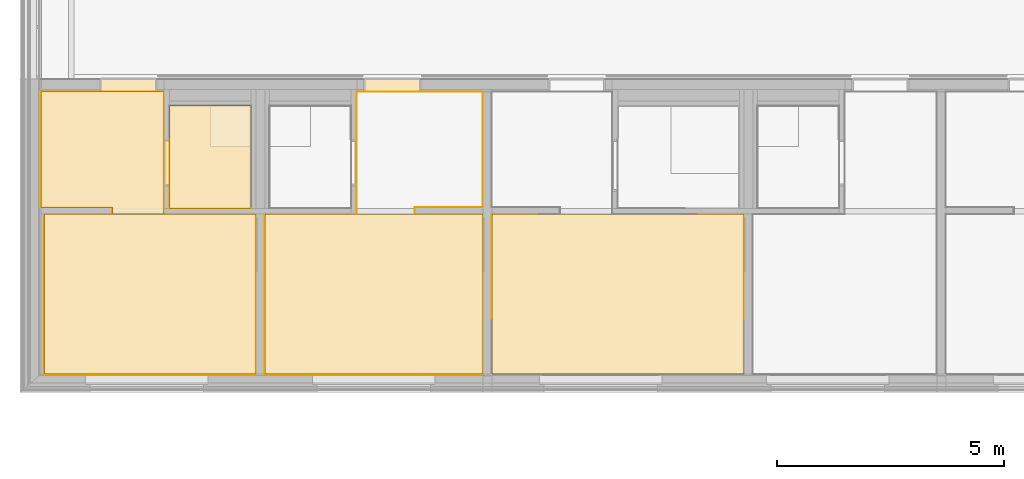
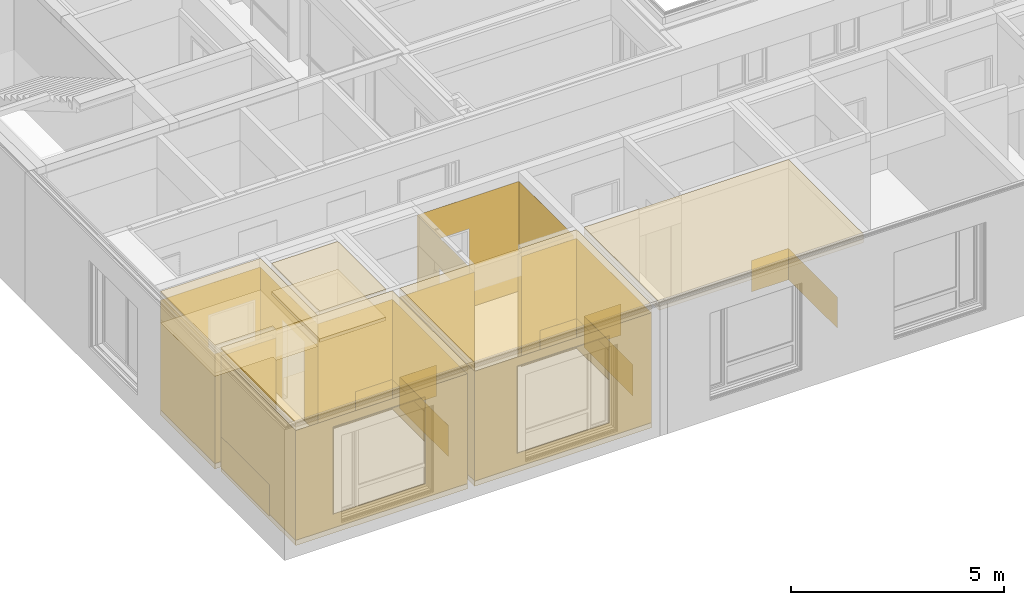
# One storey, part 153 of 222: 32 coverings.
"""IFC4 building model written with IfcOpenShell, lengths in metres."""

from ifc_helpers import new_model, entity, si_unit, converted_unit, derived_unit, frame, frame_2d, origin, origin_with_axes, place, context, subcontext, project, spatial, polyline, rectangle, outline, extrude, material, layer, layer_set, layer_usage, element, save


model = new_model("IFC4")

# Units and contexts
model_context = context("Model", 3, precision=1e-05, world=origin())
body_context = subcontext(model_context, "Body", "Model", "MODEL_VIEW")
ifc_project = project(units=[si_unit("LENGTHUNIT", "METRE"), si_unit("AREAUNIT", "SQUARE_METRE"), si_unit("VOLUMEUNIT", "CUBIC_METRE"), si_unit("MASSUNIT", "GRAM", prefix="KILO"), converted_unit("PLANEANGLEUNIT", "DEGREE", entity("IfcPlaneAngleMeasure", 0.0174532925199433), si_unit("PLANEANGLEUNIT", "RADIAN"), dimensions=[0, 0, 0, 0, 0, 0, 0]), derived_unit("THERMALTRANSMITTANCEUNIT", [(si_unit("POWERUNIT", "WATT"), 1), (si_unit("THERMODYNAMICTEMPERATUREUNIT", "KELVIN"), -1), (si_unit("LENGTHUNIT", "METRE"), -2)]), derived_unit("VOLUMETRICFLOWRATEUNIT", [(si_unit("LENGTHUNIT", "METRE"), 3), (converted_unit("TIMEUNIT", "hour", entity("IfcTimeMeasure", 3600.0), si_unit("TIMEUNIT", "SECOND"), dimensions=[0, 0, 1, 0, 0, 0, 0]), -1), (si_unit("LENGTHUNIT", "METRE"), -1)])], contexts=[model_context])

# Site, building, storey, space
site_placement = place(None, origin())
site = spatial("IfcSite", under=ifc_project, at=site_placement, Name="Psychiatrie Neubau Wunstorf", CompositionType="ELEMENT")
building_placement = place(site_placement, origin())
building = spatial("IfcBuilding", under=site, at=building_placement, Name="Neubau H2 Stationsgebäude", CompositionType="ELEMENT")
storey_placement = place(building_placement, frame((0.0, 0.0, 3.6)))
storey = spatial("IfcBuildingStorey", under=building, at=storey_placement, Name="H2 Ebene +1", CompositionType="ELEMENT", Elevation=3.6)
space_1_placement = place(storey_placement, frame((10.1, -2.16399999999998, 0.0)))
space_1 = spatial("IfcSpace", under=storey, at=space_1_placement, Name="WUN-H2-E01-023", CompositionType="ELEMENT")

# Coverings
ifc_material_1 = material(Name="84")
ifc_layer_1 = layer(ifc_material_1, 0.001)
ifc_layer_set_1 = layer_set([ifc_layer_1])
ifc_layer_usage_1 = layer_usage(ifc_layer_set_1, "AXIS3", "POSITIVE", 0.0)
covering_1_placement = place(space_1_placement, frame((0.0, 1.22274963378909, 0.1)))
element("IfcCovering", 1, at=covering_1_placement, inside=space_1, material=ifc_layer_usage_1, Name="Acrovyn", PredefinedType="CLADDING", context=body_context, shape_type="SweptSolid", body=[
    extrude(rectangle(XDim=1.0, YDim=0.9, at=frame_2d((0.5, -0.45), x_axis=(1.0, 0.0))), frame((1.0, 2.3, 0.0), z_axis=(0.0, -1.0, 0.0), x_axis=(-1.0, 0.0, 0.0)), (0.0, 0.0, 1.0), 0.001),
    extrude(rectangle(XDim=2.3, YDim=0.9, at=frame_2d((1.15, -0.45), x_axis=(1.0, 0.0))), frame((0.0, 2.3, 0.0), z_axis=(1.0, 0.0, 0.0), x_axis=(0.0, -1.0, 0.0)), (0.0, 0.0, 1.0), 0.001),
])
ifc_material_2 = material(Name="84")
ifc_layer_2 = layer(ifc_material_2, 0.001)
ifc_layer_set_2 = layer_set([ifc_layer_2])
ifc_layer_usage_2 = layer_usage(ifc_layer_set_2, "AXIS3", "POSITIVE", 0.0)
covering_2_placement = place(space_1_placement, frame((4.55000000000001, 1.2227496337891, 0.1)))
element("IfcCovering", 2, at=covering_2_placement, inside=space_1, material=ifc_layer_usage_2, Name="Acrovyn", PredefinedType="CLADDING", context=body_context, shape_type="SweptSolid", body=[
    extrude(rectangle(XDim=0.9, YDim=1.0, at=frame_2d((-0.5, -0.45), x_axis=(0.0, -1.0))), frame((0.0, 2.3, 0.0), z_axis=(4.54747350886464e-16, -1.0, 0.0), x_axis=(-1.0, -4.54747350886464e-16, 0.0)), (0.0, 0.0, 1.0), 0.001),
    extrude(rectangle(XDim=0.9, YDim=2.3, at=frame_2d((-1.15, -0.45), x_axis=(0.0, -1.0))), frame((1.0, 2.3, 0.0), z_axis=(-1.0, 0.0, 0.0), x_axis=(0.0, 1.0, 0.0)), (0.0, 0.0, 1.0), 0.001),
])
ifc_material_3 = material()
ifc_layer_3 = layer(ifc_material_3, 0.036)
ifc_layer_set_3 = layer_set([ifc_layer_3])
ifc_layer_usage_3 = layer_usage(ifc_layer_set_3, "AXIS3", "POSITIVE", 0.0)
covering_3_placement = place(space_1_placement, frame((0.0, 0.0, 3.55)))
element("IfcCovering", 3, at=covering_3_placement, inside=space_1, material=ifc_layer_usage_3, Name="Gipsfaserplatten 2-lagig (BSK)", PredefinedType="CEILING", context=body_context, shape_type="SweptSolid", body=[
    extrude(rectangle(XDim=5.55, YDim=3.52274963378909, at=frame_2d((2.775, 1.76137481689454), x_axis=(1.0, -1.27001512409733e-15))), frame((0.0, 3.52274963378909, 0.0), z_axis=(0.0, 0.0, -1.0), x_axis=(1.0, 0.0, 0.0)), (0.0, 0.0, 1.0), 0.036),
])
ifc_material_4 = material(Name="Installationshöhe")
ifc_layer_4 = layer(ifc_material_4, 0.114)
ifc_layer_set_4 = layer_set([ifc_layer_4])
ifc_layer_usage_4 = layer_usage(ifc_layer_set_4, "AXIS3", "POSITIVE", 0.0)
covering_4_placement = place(space_1_placement, frame((0.0, 0.0, 3.514)))
element("IfcCovering", 4, at=covering_4_placement, inside=space_1, material=ifc_layer_usage_4, Name="Gipsfaserplatten 2-lagig (BSK)", PredefinedType="CEILING", context=body_context, shape_type="SweptSolid", body=[
    extrude(rectangle(XDim=5.55, YDim=3.52274963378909, at=frame_2d((2.775, 1.76137481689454), x_axis=(1.0, -1.27001512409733e-15))), frame((0.0, 3.52274963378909, 0.0), z_axis=(0.0, 0.0, -1.0), x_axis=(1.0, 0.0, 0.0)), (0.0, 0.0, 1.0), 0.114),
])
ifc_material_5 = material(Name="A1")
ifc_layer_5 = layer(ifc_material_5, 0.1)
ifc_layer_set_5 = layer_set([ifc_layer_5])
ifc_layer_usage_5 = layer_usage(ifc_layer_set_5, "AXIS3", "POSITIVE", 0.0)
covering_5_placement = place(space_1_placement, frame((0.0, 0.0, 3.4)))
element("IfcCovering", 5, at=covering_5_placement, inside=space_1, material=ifc_layer_usage_5, Name="Gipsfaserplatten 2-lagig (BSK)", PredefinedType="CEILING", context=body_context, shape_type="SweptSolid", body=[
    extrude(rectangle(XDim=5.55, YDim=3.52274963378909, at=frame_2d((2.775, 1.76137481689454), x_axis=(1.0, -1.27001512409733e-15))), frame((0.0, 3.52274963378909, 0.0), z_axis=(0.0, 0.0, -1.0), x_axis=(1.0, 0.0, 0.0)), (0.0, 0.0, 1.0), 0.1),
])
ifc_material_6 = material(Name="D1")
ifc_layer_6 = layer(ifc_material_6, 0.001)
ifc_layer_set_6 = layer_set([ifc_layer_6])
ifc_layer_usage_6 = layer_usage(ifc_layer_set_6, "AXIS3", "POSITIVE", 0.0)
covering_6_placement = place(space_1_placement, frame((0.0, 0.0, 3.3)))
element("IfcCovering", 6, at=covering_6_placement, inside=space_1, material=ifc_layer_usage_6, Name="Gipsfaserplatten 2-lagig (BSK)", PredefinedType="CEILING", context=body_context, shape_type="SweptSolid", body=[
    extrude(rectangle(XDim=5.55, YDim=3.52274963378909, at=frame_2d((2.775, 1.76137481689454), x_axis=(1.0, -1.27001512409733e-15))), frame((0.0, 3.52274963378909, 0.0), z_axis=(0.0, 0.0, -1.0), x_axis=(1.0, 0.0, 0.0)), (0.0, 0.0, 1.0), 0.001),
])

# Space
space_2_placement = place(storey_placement, frame((5.1, -2.16399999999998, 0.0)))
space_2 = spatial("IfcSpace", under=storey, at=space_2_placement, Name="WUN-H2-E01-024", CompositionType="ELEMENT")

# Coverings
ifc_material_7 = material(Name="84")
ifc_layer_7 = layer(ifc_material_7, 0.001)
ifc_layer_set_7 = layer_set([ifc_layer_7])
ifc_layer_usage_7 = layer_usage(ifc_layer_set_7, "AXIS3", "POSITIVE", 0.0)
covering_7_placement = place(space_2_placement, frame((0.0, 1.22274963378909, 0.1)))
element("IfcCovering", 7, at=covering_7_placement, inside=space_2, material=ifc_layer_usage_7, Name="Acrovyn", PredefinedType="CLADDING", context=body_context, shape_type="SweptSolid", body=[
    extrude(rectangle(XDim=1.0, YDim=0.9, at=frame_2d((0.5, -0.45), x_axis=(1.0, 0.0))), frame((1.0, 2.3, 0.0), z_axis=(0.0, -1.0, 0.0), x_axis=(-1.0, 0.0, 0.0)), (0.0, 0.0, 1.0), 0.001),
    extrude(rectangle(XDim=2.3, YDim=0.9, at=frame_2d((1.15, -0.45), x_axis=(1.0, 0.0))), frame((0.0, 2.3, 0.0), z_axis=(1.0, 0.0, 0.0), x_axis=(0.0, -1.0, 0.0)), (0.0, 0.0, 1.0), 0.001),
])
ifc_material_8 = material(Name="84")
ifc_layer_8 = layer(ifc_material_8, 0.001)
ifc_layer_set_8 = layer_set([ifc_layer_8])
ifc_layer_usage_8 = layer_usage(ifc_layer_set_8, "AXIS3", "POSITIVE", 0.0)
covering_8_placement = place(space_2_placement, frame((3.80000000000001, 1.2227496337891, 0.1)))
element("IfcCovering", 8, at=covering_8_placement, inside=space_2, material=ifc_layer_usage_8, Name="Acrovyn", PredefinedType="CLADDING", context=body_context, shape_type="SweptSolid", body=[
    extrude(rectangle(XDim=0.9, YDim=1.0, at=frame_2d((-0.5, -0.45), x_axis=(0.0, -1.0))), frame((0.0, 2.3, 0.0), z_axis=(4.54747350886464e-16, -1.0, 0.0), x_axis=(-1.0, -4.54747350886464e-16, 0.0)), (0.0, 0.0, 1.0), 0.001),
    extrude(rectangle(XDim=0.9, YDim=2.3, at=frame_2d((-1.15, -0.45), x_axis=(0.0, -1.0))), frame((1.0, 2.3, 0.0), z_axis=(-1.0, 0.0, 0.0), x_axis=(0.0, 1.0, 0.0)), (0.0, 0.0, 1.0), 0.001),
])
ifc_material_9 = material(Name="Ku1")
ifc_layer_9 = layer(ifc_material_9, 0.15)
ifc_layer_set_9 = layer_set([ifc_layer_9])
ifc_layer_usage_9 = layer_usage(ifc_layer_set_9, "AXIS3", "POSITIVE", 0.0)
covering_9_placement = place(space_2_placement, origin())
element("IfcCovering", 9, at=covering_9_placement, inside=space_2, material=ifc_layer_usage_9, Name="PVC Bahnenware Holzoptik", PredefinedType="FLOORING", context=body_context, shape_type="SweptSolid", body=[
    extrude(rectangle(XDim=0.271999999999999, YDim=1.26, at=frame_2d((-0.63, 0.136), x_axis=(0.0, 1.0))), frame((3.435, 6.22274963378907, 0.0), z_axis=(0.0, 0.0, 1.0), x_axis=(1.0, 0.0, 0.0)), (0.0, 0.0, 1.0), 0.15),
    extrude(outline(polyline([(3.29999999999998, 3.67274963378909), (4.8, 3.67274963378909), (4.79999999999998, 6.22274963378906), (2.025, 6.22274963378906), (2.025, 3.52274963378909), (0.0, 3.52274963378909), (0.0, 0.0), (4.8, 0.0), (4.8, 3.52274963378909), (3.29999999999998, 3.52274963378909), (3.29999999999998, 3.67274963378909)])), origin_with_axes(), (0.0, 0.0, 1.0), 0.15),
])
ifc_material_10 = material()
ifc_layer_10 = layer(ifc_material_10, 0.036)
ifc_layer_set_10 = layer_set([ifc_layer_10])
ifc_layer_usage_10 = layer_usage(ifc_layer_set_10, "AXIS3", "POSITIVE", 0.0)
covering_10_placement = place(space_2_placement, frame((0.0, 0.0, 3.55)))
element("IfcCovering", 10, at=covering_10_placement, inside=space_2, material=ifc_layer_usage_10, Name="Gipsfaserplatten 2-lagig (BSK)", PredefinedType="CEILING", context=body_context, shape_type="SweptSolid", body=[
    extrude(rectangle(XDim=3.52274963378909, YDim=4.8, at=frame_2d((-2.4, 1.76137481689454), x_axis=(0.0, 1.0))), frame((4.8, 3.52274963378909, 0.0), z_axis=(0.0, 0.0, -1.0), x_axis=(1.0, 0.0, 0.0)), (0.0, 0.0, 1.0), 0.036),
])
ifc_material_11 = material(Name="Installationshöhe")
ifc_layer_11 = layer(ifc_material_11, 0.114)
ifc_layer_set_11 = layer_set([ifc_layer_11])
ifc_layer_usage_11 = layer_usage(ifc_layer_set_11, "AXIS3", "POSITIVE", 0.0)
covering_11_placement = place(space_2_placement, frame((0.0, 0.0, 3.514)))
element("IfcCovering", 11, at=covering_11_placement, inside=space_2, material=ifc_layer_usage_11, Name="Gipsfaserplatten 2-lagig (BSK)", PredefinedType="CEILING", context=body_context, shape_type="SweptSolid", body=[
    extrude(rectangle(XDim=3.52274963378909, YDim=4.8, at=frame_2d((-2.4, 1.76137481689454), x_axis=(0.0, 1.0))), frame((4.8, 3.52274963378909, 0.0), z_axis=(0.0, 0.0, -1.0), x_axis=(1.0, 0.0, 0.0)), (0.0, 0.0, 1.0), 0.114),
])
ifc_material_12 = material(Name="A1")
ifc_layer_12 = layer(ifc_material_12, 0.1)
ifc_layer_set_12 = layer_set([ifc_layer_12])
ifc_layer_usage_12 = layer_usage(ifc_layer_set_12, "AXIS3", "POSITIVE", 0.0)
covering_12_placement = place(space_2_placement, frame((0.0, 0.0, 3.4)))
element("IfcCovering", 12, at=covering_12_placement, inside=space_2, material=ifc_layer_usage_12, Name="Gipsfaserplatten 2-lagig (BSK)", PredefinedType="CEILING", context=body_context, shape_type="SweptSolid", body=[
    extrude(rectangle(XDim=3.52274963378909, YDim=4.8, at=frame_2d((-2.4, 1.76137481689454), x_axis=(0.0, 1.0))), frame((4.8, 3.52274963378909, 0.0), z_axis=(0.0, 0.0, -1.0), x_axis=(1.0, 0.0, 0.0)), (0.0, 0.0, 1.0), 0.1),
])
ifc_material_13 = material(Name="D1")
ifc_layer_13 = layer(ifc_material_13, 0.001)
ifc_layer_set_13 = layer_set([ifc_layer_13])
ifc_layer_usage_13 = layer_usage(ifc_layer_set_13, "AXIS3", "POSITIVE", 0.0)
covering_13_placement = place(space_2_placement, frame((0.0, 0.0, 3.3)))
element("IfcCovering", 13, at=covering_13_placement, inside=space_2, material=ifc_layer_usage_13, Name="Gipsfaserplatten 2-lagig (BSK)", PredefinedType="CEILING", context=body_context, shape_type="SweptSolid", body=[
    extrude(rectangle(XDim=3.52274963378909, YDim=4.8, at=frame_2d((-2.4, 1.76137481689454), x_axis=(0.0, 1.0))), frame((4.8, 3.52274963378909, 0.0), z_axis=(0.0, 0.0, -1.0), x_axis=(1.0, 0.0, 0.0)), (0.0, 0.0, 1.0), 0.001),
])
ifc_material_14 = material(Name="49")
ifc_layer_14 = layer(ifc_material_14, 0.001)
ifc_layer_set_14 = layer_set([ifc_layer_14])
ifc_layer_usage_14 = layer_usage(ifc_layer_set_14, "AXIS3", "POSITIVE", 0.0)
covering_14_placement = place(space_2_placement, frame((0.0, -0.025, 0.15)))
element("IfcCovering", 14, at=covering_14_placement, inside=space_2, material=ifc_layer_usage_14, PredefinedType="CLADDING", context=body_context, shape_type="SweptSolid", body=[
    extrude(outline(polyline([(0.999999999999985, 3.15), (1.50000000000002, 3.15), (1.50000000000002, 0.0), (0.0, 0.0), (0.0, 2.3), (0.999999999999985, 2.3), (0.999999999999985, 3.15)])), frame((4.8, 3.54774963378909, 3.15), z_axis=(-1.87087966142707e-15, -1.0, -7.92505756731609e-16), x_axis=(-1.0, 1.87087966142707e-15, 0.0)), (0.0, 0.0, 1.0), 0.001),
    extrude(rectangle(XDim=0.15, YDim=3.15, at=frame_2d((0.0749999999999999, -1.575), x_axis=(1.0, 0.0))), frame((3.29999999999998, 3.54774963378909, 0.0), z_axis=(-1.0, 0.0, 0.0), x_axis=(0.0, 1.0, 0.0)), (0.0, 0.0, 1.0), 0.001),
    extrude(rectangle(XDim=1.50000000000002, YDim=3.15, at=frame_2d((0.750000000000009, -1.575), x_axis=(1.0, 0.0))), frame((3.29999999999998, 3.69774963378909, 0.0), z_axis=(0.0, 1.0, 0.0), x_axis=(1.0, 0.0, 0.0)), (0.0, 0.0, 1.0), 0.001),
    extrude(rectangle(XDim=2.54999999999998, YDim=3.15, at=frame_2d((1.27499999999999, -1.575), x_axis=(1.0, 0.0))), frame((4.8, 3.69774963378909, 0.0), z_axis=(-1.0, -7.13329177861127e-15, 2.05958446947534e-31), x_axis=(-7.13329177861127e-15, 1.0, 0.0)), (0.0, 0.0, 1.0), 0.001),
    extrude(outline(polyline([(0.0, 3.15), (1.36499999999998, 3.15), (1.36499999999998, 0.89), (2.62499999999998, 0.89), (2.62499999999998, 3.15), (2.77499999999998, 3.15), (2.77499999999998, 0.0), (0.0, 0.0), (0.0, 3.15)])), frame((4.79999999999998, 6.24774963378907, 3.15), z_axis=(-1.55957542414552e-16, -1.0, 8.40514542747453e-16), x_axis=(-1.0, 1.55957542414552e-16, 0.0)), (0.0, 0.0, 1.0), 0.001),
    extrude(outline(polyline([(0.0, 3.15), (1.06499999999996, 3.15), (1.06499999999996, 0.89), (2.07499999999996, 0.89), (2.07499999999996, 3.15), (2.69999999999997, 3.15), (2.69999999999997, 0.0), (0.0, 0.0), (0.0, 3.15)])), frame((2.025, 6.24774963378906, 3.15), z_axis=(1.0, -6.08159105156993e-16, 1.18735825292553e-16), x_axis=(-6.08159105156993e-16, -1.0, 0.0)), (0.0, 0.0, 1.0), 0.001),
    extrude(outline(polyline([(0.0, 3.15), (1.025, 3.15), (1.025, 2.3), (2.025, 2.3), (2.025, 0.0), (0.0, 0.0), (0.0, 3.15)])), frame((2.025, 3.54774963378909, 3.15), z_axis=(0.0, -1.0, 0.0), x_axis=(-1.0, 0.0, 0.0)), (0.0, 0.0, 1.0), 0.001),
    extrude(outline(polyline([(2.3, 3.15), (3.52274963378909, 3.15), (3.52274963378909, 0.0), (0.0, 0.0), (0.0, 2.3), (2.3, 2.3), (2.3, 3.15)])), frame((0.0, 3.54774963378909, 3.15), z_axis=(1.0, -2.6796427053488e-16, 3.45706118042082e-17), x_axis=(-2.6796427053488e-16, -1.0, 0.0)), (0.0, 0.0, 1.0), 0.001),
    extrude(outline(polyline([(0.0, 3.15), (4.8, 3.15), (4.8, 0.0), (0.0, 0.0), (0.0, 3.15)]), holes=[polyline([(3.65, 2.75), (1.15, 2.75), (1.15, 0.25), (3.65, 0.25), (3.65, 2.75)])]), frame((0.0, 0.0249999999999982, 3.15), z_axis=(5.31992689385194e-17, 1.0, 0.0), x_axis=(1.0, -5.31992689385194e-17, 0.0)), (0.0, 0.0, 1.0), 0.001),
    extrude(outline(polyline([(0.0, 3.15), (1.2227496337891, 3.15), (1.2227496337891, 2.3), (3.52274963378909, 2.3), (3.52274963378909, 0.0), (0.0, 0.0), (0.0, 3.15)])), frame((4.8, 0.025, 3.15), z_axis=(-1.0, -1.23552388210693e-15, -1.21832263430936e-15), x_axis=(-1.23552388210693e-15, 1.0, 0.0)), (0.0, 0.0, 1.0), 0.001),
    extrude(rectangle(XDim=0.0249999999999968, YDim=2.5, at=frame_2d((0.0124999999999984, -1.25), x_axis=(1.0, 0.0))), frame((1.15, 0.0249999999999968, 0.4), z_axis=(1.0, 0.0, 0.0), x_axis=(0.0, -1.0, 0.0)), (0.0, 0.0, 1.0), 0.001),
    extrude(rectangle(XDim=2.5, YDim=0.0249999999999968, at=frame_2d((-1.25, 0.0124999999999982), x_axis=(-1.0, -1.81898940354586e-16))), frame((3.65, 0.0249999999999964, 2.9), z_axis=(0.0, 0.0, -1.0), x_axis=(1.0, 0.0, 0.0)), (0.0, 0.0, 1.0), 0.001),
    extrude(rectangle(XDim=2.5, YDim=0.0249999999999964, at=frame_2d((-0.0124999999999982, -1.25), x_axis=(0.0, -1.0))), frame((3.65, 0.0249999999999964, 0.4), z_axis=(-1.0, 0.0, 0.0), x_axis=(0.0, 1.0, 0.0)), (0.0, 0.0, 1.0), 0.001),
])

# Space
space_3_placement = place(storey_placement, frame((0.168999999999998, -2.16399999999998, 0.0)))
space_3 = spatial("IfcSpace", under=storey, at=space_3_placement, Name="WUN-H2-E01-025", CompositionType="ELEMENT")

# Coverings
ifc_material_15 = material(Name="84")
ifc_layer_15 = layer(ifc_material_15, 0.001)
ifc_layer_set_15 = layer_set([ifc_layer_15])
ifc_layer_usage_15 = layer_usage(ifc_layer_set_15, "AXIS3", "POSITIVE", 0.0)
covering_15_placement = place(space_3_placement, frame((0.0749999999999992, 1.22274963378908, 0.1)))
element("IfcCovering", 15, at=covering_15_placement, inside=space_3, material=ifc_layer_usage_15, Name="Acrovyn", PredefinedType="CLADDING", context=body_context, shape_type="SweptSolid", body=[
    extrude(rectangle(XDim=1.0, YDim=0.9, at=frame_2d((0.5, -0.45), x_axis=(1.0, 0.0))), frame((1.0, 2.3, 0.0), z_axis=(0.0, -1.0, 0.0), x_axis=(-1.0, 0.0, 0.0)), (0.0, 0.0, 1.0), 0.001),
    extrude(rectangle(XDim=2.3, YDim=0.9, at=frame_2d((1.15, -0.45), x_axis=(1.0, 0.0))), frame((0.0, 2.3, 0.0), z_axis=(1.0, -6.17863248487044e-17, 6.24381501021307e-33), x_axis=(-6.17863248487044e-17, -1.0, 0.0)), (0.0, 0.0, 1.0), 0.001),
])
ifc_material_16 = material(Name="84")
ifc_layer_16 = layer(ifc_material_16, 0.001)
ifc_layer_set_16 = layer_set([ifc_layer_16])
ifc_layer_usage_16 = layer_usage(ifc_layer_set_16, "AXIS3", "POSITIVE", 0.0)
covering_16_placement = place(space_3_placement, frame((3.73100000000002, 1.2227496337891, 0.1)))
element("IfcCovering", 16, at=covering_16_placement, inside=space_3, material=ifc_layer_usage_16, Name="Acrovyn", PredefinedType="CLADDING", context=body_context, shape_type="SweptSolid", body=[
    extrude(rectangle(XDim=0.9, YDim=1.0, at=frame_2d((-0.5, -0.45), x_axis=(0.0, -1.0))), frame((0.0, 2.3, 0.0), z_axis=(4.54747350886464e-16, -1.0, 0.0), x_axis=(-1.0, -4.54747350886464e-16, 0.0)), (0.0, 0.0, 1.0), 0.001),
    extrude(rectangle(XDim=0.9, YDim=2.3, at=frame_2d((-1.15, -0.45), x_axis=(0.0, -1.0))), frame((1.0, 2.3, 0.0), z_axis=(-1.0, 0.0, 0.0), x_axis=(0.0, 1.0, 0.0)), (0.0, 0.0, 1.0), 0.001),
])
ifc_material_17 = material()
ifc_layer_17 = layer(ifc_material_17, 0.036)
ifc_layer_set_17 = layer_set([ifc_layer_17])
ifc_layer_usage_17 = layer_usage(ifc_layer_set_17, "AXIS3", "POSITIVE", 0.0)
covering_17_placement = place(space_3_placement, frame((0.0, 3.52274963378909, 3.55)))
element("IfcCovering", 17, at=covering_17_placement, inside=space_3, material=ifc_layer_usage_17, Name="Gipsfaserplatten 2-lagig (BSK)", PredefinedType="CEILING", context=body_context, shape_type="SweptSolid", body=[
    extrude(outline(polyline([(1.575, 2.55), (0.0, 2.55), (0.0, 0.0), (2.706, 0.0), (2.706, 2.69999999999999), (1.575, 2.69999999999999), (1.575, 2.55)])), frame((0.0, 2.69999999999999, 0.0), z_axis=(0.0, 0.0, -1.0), x_axis=(1.0, 0.0, 0.0)), (0.0, 0.0, 1.0), 0.036),
])
ifc_material_18 = material(Name="Installationshöhe")
ifc_layer_18 = layer(ifc_material_18, 0.764)
ifc_layer_set_18 = layer_set([ifc_layer_18])
ifc_layer_usage_18 = layer_usage(ifc_layer_set_18, "AXIS3", "POSITIVE", 0.0)
covering_18_placement = place(space_3_placement, frame((0.0, 3.52274963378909, 3.514)))
element("IfcCovering", 18, at=covering_18_placement, inside=space_3, material=ifc_layer_usage_18, Name="Gipsfaserplatten 2-lagig (BSK)", PredefinedType="CEILING", context=body_context, shape_type="SweptSolid", body=[
    extrude(outline(polyline([(1.575, 2.55), (0.0, 2.55), (0.0, 0.0), (2.706, 0.0), (2.706, 2.69999999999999), (1.575, 2.69999999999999), (1.575, 2.55)])), frame((0.0, 2.69999999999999, 0.0), z_axis=(0.0, 0.0, -1.0), x_axis=(1.0, 0.0, 0.0)), (0.0, 0.0, 1.0), 0.764),
])
ifc_material_19 = material(Name="A1")
ifc_layer_19 = layer(ifc_material_19, 0.1)
ifc_layer_set_19 = layer_set([ifc_layer_19])
ifc_layer_usage_19 = layer_usage(ifc_layer_set_19, "AXIS3", "POSITIVE", 0.0)
covering_19_placement = place(space_3_placement, frame((0.0, 3.52274963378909, 2.75)))
element("IfcCovering", 19, at=covering_19_placement, inside=space_3, material=ifc_layer_usage_19, Name="Gipsfaserplatten 2-lagig (BSK)", PredefinedType="CEILING", context=body_context, shape_type="SweptSolid", body=[
    extrude(outline(polyline([(1.575, 2.55), (0.0, 2.55), (0.0, 0.0), (2.706, 0.0), (2.706, 2.69999999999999), (1.575, 2.69999999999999), (1.575, 2.55)])), frame((0.0, 2.69999999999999, 0.0), z_axis=(0.0, 0.0, -1.0), x_axis=(1.0, 0.0, 0.0)), (0.0, 0.0, 1.0), 0.1),
])
ifc_material_20 = material(Name="D1")
ifc_layer_20 = layer(ifc_material_20, 0.001)
ifc_layer_set_20 = layer_set([ifc_layer_20])
ifc_layer_usage_20 = layer_usage(ifc_layer_set_20, "AXIS3", "POSITIVE", 0.0)
covering_20_placement = place(space_3_placement, frame((0.0, 3.52274963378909, 2.65)))
element("IfcCovering", 20, at=covering_20_placement, inside=space_3, material=ifc_layer_usage_20, Name="Gipsfaserplatten 2-lagig (BSK)", PredefinedType="CEILING", context=body_context, shape_type="SweptSolid", body=[
    extrude(outline(polyline([(1.575, 2.55), (0.0, 2.55), (0.0, 0.0), (2.706, 0.0), (2.706, 2.69999999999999), (1.575, 2.69999999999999), (1.575, 2.55)])), frame((0.0, 2.69999999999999, 0.0), z_axis=(0.0, 0.0, -1.0), x_axis=(1.0, 0.0, 0.0)), (0.0, 0.0, 1.0), 0.001),
])
ifc_material_21 = material(Name="Ku1")
ifc_layer_21 = layer(ifc_material_21, 0.15)
ifc_layer_set_21 = layer_set([ifc_layer_21])
ifc_layer_usage_21 = layer_usage(ifc_layer_set_21, "AXIS3", "POSITIVE", 0.0)
covering_21_placement = place(space_3_placement, origin())
element("IfcCovering", 21, at=covering_21_placement, inside=space_3, material=ifc_layer_usage_21, Name="PVC Bahnenware Holzoptik", PredefinedType="FLOORING", context=body_context, shape_type="SweptSolid", body=[
    extrude(rectangle(XDim=0.271999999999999, YDim=1.26, at=frame_2d((-0.63, 0.136), x_axis=(0.0, 1.0))), frame((2.556, 6.22274963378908, 0.0), z_axis=(0.0, 0.0, 1.0), x_axis=(1.0, 0.0, 0.0)), (0.0, 0.0, 1.0), 0.15),
    extrude(outline(polyline([(1.575, 3.52274963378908), (0.0749999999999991, 3.52274963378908), (0.0749999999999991, 0.0), (4.731, 0.0), (4.731, 3.52274963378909), (2.706, 3.52274963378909), (2.706, 6.22274963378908), (0.0, 6.22274963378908), (0.0, 3.67274963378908), (1.575, 3.67274963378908), (1.575, 3.52274963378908)])), origin_with_axes(), (0.0, 0.0, 1.0), 0.15),
])
ifc_material_22 = material()
ifc_layer_22 = layer(ifc_material_22, 0.036)
ifc_layer_set_22 = layer_set([ifc_layer_22])
ifc_layer_usage_22 = layer_usage(ifc_layer_set_22, "AXIS3", "POSITIVE", 0.0)
covering_22_placement = place(space_3_placement, frame((0.0749999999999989, 0.0, 3.55)))
element("IfcCovering", 22, at=covering_22_placement, inside=space_3, material=ifc_layer_usage_22, Name="Gipsfaserplatten 2-lagig (BSK)", PredefinedType="CEILING", context=body_context, shape_type="SweptSolid", body=[
    extrude(rectangle(XDim=4.656, YDim=3.52274963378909, at=frame_2d((2.328, 1.76137481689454), x_axis=(1.0, -1.26969835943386e-15))), frame((0.0, 3.52274963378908, 0.0), z_axis=(0.0, 0.0, -1.0), x_axis=(1.0, 0.0, 0.0)), (0.0, 0.0, 1.0), 0.036),
])
ifc_material_23 = material(Name="Installationshöhe")
ifc_layer_23 = layer(ifc_material_23, 0.114)
ifc_layer_set_23 = layer_set([ifc_layer_23])
ifc_layer_usage_23 = layer_usage(ifc_layer_set_23, "AXIS3", "POSITIVE", 0.0)
covering_23_placement = place(space_3_placement, frame((0.0749999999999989, 0.0, 3.514)))
element("IfcCovering", 23, at=covering_23_placement, inside=space_3, material=ifc_layer_usage_23, Name="Gipsfaserplatten 2-lagig (BSK)", PredefinedType="CEILING", context=body_context, shape_type="SweptSolid", body=[
    extrude(rectangle(XDim=4.656, YDim=3.52274963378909, at=frame_2d((2.328, 1.76137481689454), x_axis=(1.0, -1.26969835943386e-15))), frame((0.0, 3.52274963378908, 0.0), z_axis=(0.0, 0.0, -1.0), x_axis=(1.0, 0.0, 0.0)), (0.0, 0.0, 1.0), 0.114),
])
ifc_material_24 = material(Name="A1")
ifc_layer_24 = layer(ifc_material_24, 0.1)
ifc_layer_set_24 = layer_set([ifc_layer_24])
ifc_layer_usage_24 = layer_usage(ifc_layer_set_24, "AXIS3", "POSITIVE", 0.0)
covering_24_placement = place(space_3_placement, frame((0.0749999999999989, 0.0, 3.4)))
element("IfcCovering", 24, at=covering_24_placement, inside=space_3, material=ifc_layer_usage_24, Name="Gipsfaserplatten 2-lagig (BSK)", PredefinedType="CEILING", context=body_context, shape_type="SweptSolid", body=[
    extrude(rectangle(XDim=4.656, YDim=3.52274963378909, at=frame_2d((2.328, 1.76137481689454), x_axis=(1.0, -1.26969835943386e-15))), frame((0.0, 3.52274963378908, 0.0), z_axis=(0.0, 0.0, -1.0), x_axis=(1.0, 0.0, 0.0)), (0.0, 0.0, 1.0), 0.1),
])
ifc_material_25 = material(Name="D1")
ifc_layer_25 = layer(ifc_material_25, 0.001)
ifc_layer_set_25 = layer_set([ifc_layer_25])
ifc_layer_usage_25 = layer_usage(ifc_layer_set_25, "AXIS3", "POSITIVE", 0.0)
covering_25_placement = place(space_3_placement, frame((0.0749999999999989, 0.0, 3.3)))
element("IfcCovering", 25, at=covering_25_placement, inside=space_3, material=ifc_layer_usage_25, Name="Gipsfaserplatten 2-lagig (BSK)", PredefinedType="CEILING", context=body_context, shape_type="SweptSolid", body=[
    extrude(rectangle(XDim=4.656, YDim=3.52274963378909, at=frame_2d((2.328, 1.76137481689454), x_axis=(1.0, -1.26969835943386e-15))), frame((0.0, 3.52274963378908, 0.0), z_axis=(0.0, 0.0, -1.0), x_axis=(1.0, 0.0, 0.0)), (0.0, 0.0, 1.0), 0.001),
])
ifc_material_26 = material(Name="49")
ifc_layer_26 = layer(ifc_material_26, 0.001)
ifc_layer_set_26 = layer_set([ifc_layer_26])
ifc_layer_usage_26 = layer_usage(ifc_layer_set_26, "AXIS3", "POSITIVE", 0.0)
covering_26_placement = place(space_3_placement, frame((0.0, -0.0249999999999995, 0.15)))
element("IfcCovering", 26, at=covering_26_placement, inside=space_3, material=ifc_layer_usage_26, PredefinedType="CLADDING", context=body_context, shape_type="SweptSolid", body=[
    extrude(rectangle(XDim=1.575, YDim=3.15, at=frame_2d((0.7875, -1.575), x_axis=(1.0, 0.0))), frame((0.0, 3.69774963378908, 0.0), z_axis=(0.0, 1.0, 0.0), x_axis=(1.0, 0.0, 0.0)), (0.0, 0.0, 1.0), 0.001),
    extrude(rectangle(XDim=0.15, YDim=3.15, at=frame_2d((0.0749999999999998, -1.575), x_axis=(1.0, 0.0))), frame((1.575, 3.69774963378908, 0.0), z_axis=(1.0, 0.0, 0.0), x_axis=(0.0, -1.0, 0.0)), (0.0, 0.0, 1.0), 0.001),
    extrude(outline(polyline([(0.0, 3.15), (0.5, 3.15), (0.5, 2.3), (1.5, 2.3), (1.5, 0.0), (0.0, 0.0), (0.0, 3.15)])), frame((1.575, 3.54774963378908, 3.15), z_axis=(4.81164209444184e-17, -1.0, 0.0), x_axis=(-1.0, -4.81164209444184e-17, 0.0)), (0.0, 0.0, 1.0), 0.001),
    extrude(outline(polyline([(2.3, 3.15), (3.52274963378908, 3.15), (3.52274963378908, 0.0), (0.0, 0.0), (0.0, 2.3), (2.3, 2.3), (2.3, 3.15)])), frame((0.0749999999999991, 3.54774963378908, 3.15), z_axis=(1.0, -1.11066777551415e-17, -1.18976819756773e-17), x_axis=(-1.11066777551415e-17, -1.0, 0.0)), (0.0, 0.0, 1.0), 0.001),
    extrude(outline(polyline([(0.0, 3.15), (4.656, 3.15), (4.656, 0.0), (0.0, 0.0), (0.0, 3.15)]), holes=[polyline([(3.506, 2.75), (1.006, 2.75), (1.006, 0.25), (3.506, 0.25), (3.506, 2.75)])]), frame((0.0749999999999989, 0.0250000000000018, 3.15), z_axis=(5.3374612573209e-16, 1.0, -1.97734938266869e-32), x_axis=(1.0, -5.3374612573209e-16, 0.0)), (0.0, 0.0, 1.0), 0.001),
    extrude(outline(polyline([(0.0, 3.15), (1.22274963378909, 3.15), (1.22274963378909, 2.3), (3.52274963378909, 2.3), (3.52274963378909, 0.0), (0.0, 0.0), (0.0, 3.15)])), frame((4.731, 0.025, 3.15), z_axis=(-1.0, -1.23552388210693e-15, -1.21832263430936e-15), x_axis=(-1.23552388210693e-15, 1.0, 0.0)), (0.0, 0.0, 1.0), 0.001),
    extrude(outline(polyline([(0.999999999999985, 3.15), (2.025, 3.15), (2.025, 0.0), (0.0, 0.0), (0.0, 2.3), (0.999999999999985, 2.3), (0.999999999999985, 3.15)])), frame((4.731, 3.54774963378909, 3.15), z_axis=(7.34093620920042e-16, -1.0, -8.63639554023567e-16), x_axis=(-1.0, -7.34093620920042e-16, 0.0)), (0.0, 0.0, 1.0), 0.001),
    extrude(outline(polyline([(0.0, 3.15), (0.625000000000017, 3.15), (0.625000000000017, 0.89), (1.63500000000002, 0.89), (1.63500000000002, 3.15), (2.69999999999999, 3.15), (2.69999999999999, 0.0), (0.0, 0.0), (0.0, 3.15)])), frame((2.706, 3.54774963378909, 3.15), z_axis=(-1.0, 0.0, 0.0), x_axis=(0.0, 1.0, 0.0)), (0.0, 0.0, 1.0), 0.001),
    extrude(outline(polyline([(0.0, 3.15), (0.15, 3.15), (0.15, 0.89), (1.41, 0.89), (1.41, 3.15), (2.706, 3.15), (2.706, 0.0), (0.0, 0.0), (0.0, 3.15)])), frame((2.706, 6.24774963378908, 3.15), z_axis=(-1.5946391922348e-16, -1.0, 3.25983764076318e-16), x_axis=(-1.0, 1.5946391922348e-16, 0.0)), (0.0, 0.0, 1.0), 0.001),
    extrude(rectangle(XDim=2.55, YDim=3.15, at=frame_2d((1.275, -1.575), x_axis=(1.0, 0.0))), frame((0.0, 6.24774963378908, 0.0), z_axis=(1.0, 0.0, 0.0), x_axis=(0.0, -1.0, 0.0)), (0.0, 0.0, 1.0), 0.001),
    extrude(rectangle(XDim=0.0249999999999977, YDim=2.5, at=frame_2d((0.0124999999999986, -1.25), x_axis=(1.0, 0.0))), frame((1.081, 0.0249999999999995, 0.4), z_axis=(1.0, 0.0, 0.0), x_axis=(0.0, -1.0, 0.0)), (0.0, 0.0, 1.0), 0.001),
    extrude(rectangle(XDim=2.5, YDim=0.0249999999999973, at=frame_2d((-1.25, 0.0124999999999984), x_axis=(-1.0, -1.81898940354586e-16))), frame((3.581, 0.0249999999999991, 2.9), z_axis=(0.0, 0.0, -1.0), x_axis=(1.0, 0.0, 0.0)), (0.0, 0.0, 1.0), 0.001),
    extrude(rectangle(XDim=2.5, YDim=0.0249999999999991, at=frame_2d((-0.0124999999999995, -1.25), x_axis=(0.0, -1.0))), frame((3.581, 0.0249999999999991, 0.4), z_axis=(-1.0, 0.0, 0.0), x_axis=(0.0, 1.0, 0.0)), (0.0, 0.0, 1.0), 0.001),
])

# Space
space_4_placement = place(storey_placement, frame((3.0, 1.48374963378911, 0.0)))
space_4 = spatial("IfcSpace", under=storey, at=space_4_placement, Name="WUN-H2-E01-025a", CompositionType="ELEMENT")

# Coverings
ifc_material_27 = material(Name="Fl1")
ifc_layer_27 = layer(ifc_material_27, 0.15)
ifc_layer_set_27 = layer_set([ifc_layer_27])
ifc_layer_usage_27 = layer_usage(ifc_layer_set_27, "AXIS3", "POSITIVE", 0.0)
covering_27_placement = place(space_4_placement, frame((-0.125, 0.0, 0.0)))
element("IfcCovering", 27, at=covering_27_placement, inside=space_4, material=ifc_layer_usage_27, Name="Fliesen", PredefinedType="FLOORING", context=body_context, shape_type="SweptSolid", body=[
    extrude(rectangle(XDim=0.125, YDim=1.01, at=frame_2d((0.0625, 0.505), x_axis=(1.0, 0.0))), frame((0.0, 0.500000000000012, 0.0), z_axis=(0.0, 0.0, 1.0), x_axis=(1.0, 0.0, 0.0)), (0.0, 0.0, 1.0), 0.15),
    extrude(outline(polyline([(0.0, 0.0), (1.8, 0.0), (1.8, 1.36499999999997), (0.9, 1.36499999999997), (0.9, 2.26499999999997), (0.0, 2.26499999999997), (0.0, 0.0)])), frame((0.125, 0.0, 0.0), z_axis=(0.0, 0.0, 1.0), x_axis=(1.0, 0.0, 0.0)), (0.0, 0.0, 1.0), 0.15),
])
ifc_material_28 = material()
ifc_layer_28 = layer(ifc_material_28, 0.036)
ifc_layer_set_28 = layer_set([ifc_layer_28])
ifc_layer_usage_28 = layer_usage(ifc_layer_set_28, "AXIS3", "POSITIVE", 0.0)
covering_28_placement = place(space_4_placement, frame((0.0, 0.0, 3.55)))
element("IfcCovering", 28, at=covering_28_placement, inside=space_4, material=ifc_layer_usage_28, Name="Gipsfaserplatten 2-lagig (BSK)", PredefinedType="CEILING", context=body_context, shape_type="SweptSolid", body=[
    extrude(rectangle(XDim=2.26499999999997, YDim=1.8, at=frame_2d((0.9, -1.13249999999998), x_axis=(0.0, -1.0))), frame((0.0, 0.0, 0.0), z_axis=(0.0, 0.0, -1.0), x_axis=(1.0, 0.0, 0.0)), (0.0, 0.0, 1.0), 0.036),
])
ifc_material_29 = material(Name="Installationshöhe")
ifc_layer_29 = layer(ifc_material_29, 0.764)
ifc_layer_set_29 = layer_set([ifc_layer_29])
ifc_layer_usage_29 = layer_usage(ifc_layer_set_29, "AXIS3", "POSITIVE", 0.0)
covering_29_placement = place(space_4_placement, frame((0.0, 0.0, 3.514)))
element("IfcCovering", 29, at=covering_29_placement, inside=space_4, material=ifc_layer_usage_29, Name="Gipsfaserplatten 2-lagig (BSK)", PredefinedType="CEILING", context=body_context, shape_type="SweptSolid", body=[
    extrude(rectangle(XDim=2.26499999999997, YDim=1.8, at=frame_2d((0.9, -1.13249999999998), x_axis=(0.0, -1.0))), frame((0.0, 0.0, 0.0), z_axis=(0.0, 0.0, -1.0), x_axis=(1.0, 0.0, 0.0)), (0.0, 0.0, 1.0), 0.764),
])
ifc_material_30 = material(Name="B")
ifc_layer_30 = layer(ifc_material_30, 0.1)
ifc_layer_set_30 = layer_set([ifc_layer_30])
ifc_layer_usage_30 = layer_usage(ifc_layer_set_30, "AXIS3", "POSITIVE", 0.0)
covering_30_placement = place(space_4_placement, frame((0.0, 0.0, 2.75)))
element("IfcCovering", 30, at=covering_30_placement, inside=space_4, material=ifc_layer_usage_30, Name="Gipskarton, imprägniert", PredefinedType="CEILING", context=body_context, shape_type="SweptSolid", body=[
    extrude(rectangle(XDim=2.26499999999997, YDim=1.8, at=frame_2d((0.9, -1.13249999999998), x_axis=(0.0, -1.0))), frame((0.0, 0.0, 0.0), z_axis=(0.0, 0.0, -1.0), x_axis=(1.0, 0.0, 0.0)), (0.0, 0.0, 1.0), 0.1),
])
ifc_material_31 = material(Name="D1")
ifc_layer_31 = layer(ifc_material_31, 0.001)
ifc_layer_set_31 = layer_set([ifc_layer_31])
ifc_layer_usage_31 = layer_usage(ifc_layer_set_31, "AXIS3", "POSITIVE", 0.0)
covering_31_placement = place(space_4_placement, frame((0.0, 0.0, 2.65)))
element("IfcCovering", 31, at=covering_31_placement, inside=space_4, material=ifc_layer_usage_31, Name="Gipsfaserplatten 2-lagig (BSK)", PredefinedType="CEILING", context=body_context, shape_type="SweptSolid", body=[
    extrude(rectangle(XDim=2.26499999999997, YDim=1.8, at=frame_2d((0.9, -1.13249999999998), x_axis=(0.0, -1.0))), frame((0.0, 0.0, 0.0), z_axis=(0.0, 0.0, -1.0), x_axis=(1.0, 0.0, 0.0)), (0.0, 0.0, 1.0), 0.001),
])
ifc_material_32 = material(Name="50")
ifc_layer_32 = layer(ifc_material_32, 0.001)
ifc_layer_set_32 = layer_set([ifc_layer_32])
ifc_layer_usage_32 = layer_usage(ifc_layer_set_32, "AXIS3", "POSITIVE", 0.0)
covering_32_placement = place(space_4_placement, frame((0.0, 0.0, 0.15)))
element("IfcCovering", 32, at=covering_32_placement, inside=space_4, material=ifc_layer_usage_32, PredefinedType="CLADDING", context=body_context, shape_type="SweptSolid", body=[
    extrude(outline(polyline([(0.0, 2.5), (0.0149999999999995, 2.5), (0.0149999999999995, 0.24), (1.025, 0.24), (1.025, 2.5), (1.52500000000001, 2.5), (1.52500000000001, 0.0), (0.0, 0.0), (0.0, 2.5)])), frame((0.0, 1.52500000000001, 2.5), z_axis=(1.0, 0.0, 0.0), x_axis=(0.0, -1.0, 0.0)), (0.0, 0.0, 1.0), 0.001),
    extrude(rectangle(XDim=1.8, YDim=2.5, at=frame_2d((0.9, -1.25), x_axis=(1.0, 0.0))), frame((0.0, 0.0, 0.0), z_axis=(0.0, 1.0, 0.0), x_axis=(1.0, 0.0, 0.0)), (0.0, 0.0, 1.0), 0.001),
])

save(model, "model.ifc")
